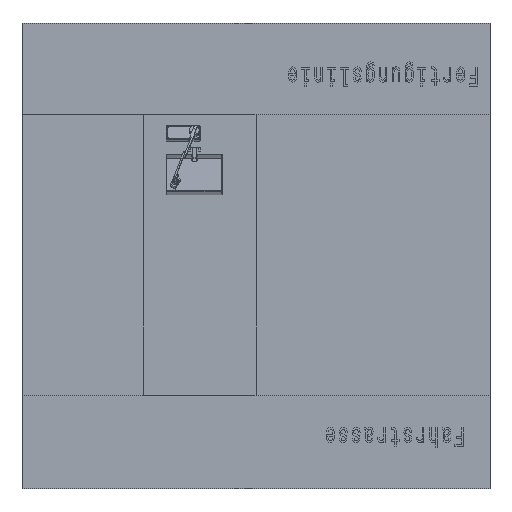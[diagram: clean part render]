
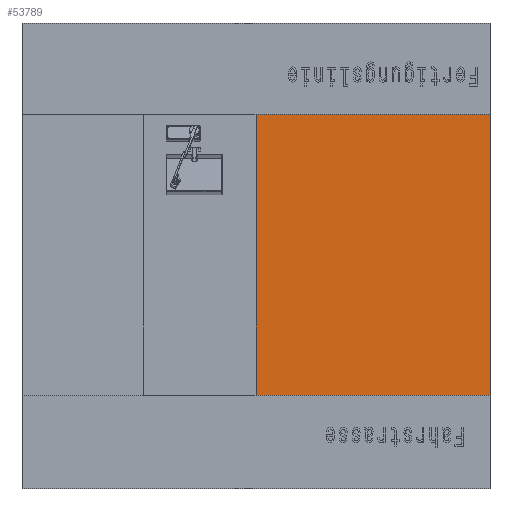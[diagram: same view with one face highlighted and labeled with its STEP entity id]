
A CAD part, top view. The second image highlights one B-rep face of the part: STEP entity #53789.
In plain terms, the highlighted planar face has unit normal (0, 0, 1).
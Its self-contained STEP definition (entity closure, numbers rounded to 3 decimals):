
#42178=AXIS2_PLACEMENT_3D('Plane Axis2P3D',#42175,#42176,#42177) ;
#42124=CARTESIAN_POINT('Line Origine',(1643.122,-817.517,1026.65)) ;
#42128=CARTESIAN_POINT('Vertex',(393.122,-817.517,1026.65)) ;
#42130=CARTESIAN_POINT('Vertex',(2893.122,-817.517,1026.65)) ;
#42175=CARTESIAN_POINT('Axis2P3D Location',(-5106.878,-1817.517,1026.65)) ;
#42229=CARTESIAN_POINT('Vertex',(393.122,2182.483,1026.65)) ;
#42232=CARTESIAN_POINT('Line Origine',(1643.122,2182.483,1026.65)) ;
#42236=CARTESIAN_POINT('Vertex',(2893.122,2182.483,1026.65)) ;
#45188=CARTESIAN_POINT('Line Origine',(2893.122,682.483,1026.65)) ;
#53778=CARTESIAN_POINT('Line Origine',(393.122,682.483,1026.65)) ;
#42125=DIRECTION('Vector Direction',(-1.,0.,0.)) ;
#42176=DIRECTION('Axis2P3D Direction',(0.,0.,1.)) ;
#42177=DIRECTION('Axis2P3D XDirection',(1.,0.,0.)) ;
#42233=DIRECTION('Vector Direction',(1.,0.,0.)) ;
#45189=DIRECTION('Vector Direction',(0.,-1.,0.)) ;
#53779=DIRECTION('Vector Direction',(0.,-1.,0.)) ;
#42126=VECTOR('Line Direction',#42125,1.) ;
#42234=VECTOR('Line Direction',#42233,1.) ;
#45190=VECTOR('Line Direction',#45189,1.) ;
#53780=VECTOR('Line Direction',#53779,1.) ;
#53784=ORIENTED_EDGE('',*,*,#42238,.T.) ;
#53785=ORIENTED_EDGE('',*,*,#53782,.T.) ;
#53786=ORIENTED_EDGE('',*,*,#42132,.T.) ;
#53787=ORIENTED_EDGE('',*,*,#45192,.F.) ;
#53789=ADVANCED_FACE('Halle',(#53788),#42179,.T.) ;
#42132=EDGE_CURVE('',#42129,#42131,#42127,.F.) ;
#42238=EDGE_CURVE('',#42237,#42230,#42235,.F.) ;
#45192=EDGE_CURVE('',#42237,#42131,#45191,.T.) ;
#53782=EDGE_CURVE('',#42230,#42129,#53781,.T.) ;
#53783=EDGE_LOOP('',(#53784,#53785,#53786,#53787)) ;
#53788=FACE_OUTER_BOUND('',#53783,.T.) ;
#42127=LINE('Line',#42124,#42126) ;
#42235=LINE('Line',#42232,#42234) ;
#45191=LINE('Line',#45188,#45190) ;
#53781=LINE('Line',#53778,#53780) ;
#42179=PLANE('',#42178) ;
#42129=VERTEX_POINT('',#42128) ;
#42131=VERTEX_POINT('',#42130) ;
#42230=VERTEX_POINT('',#42229) ;
#42237=VERTEX_POINT('',#42236) ;
